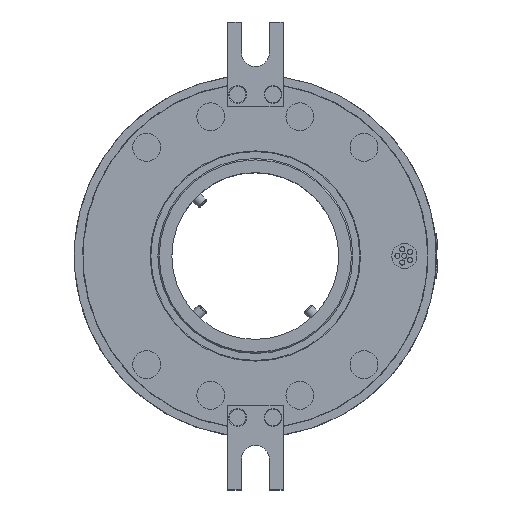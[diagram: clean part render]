
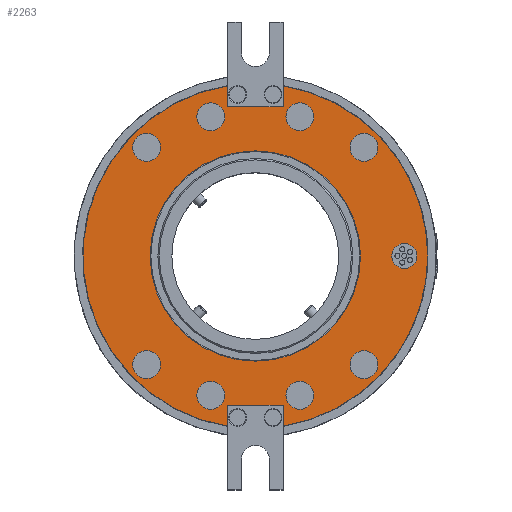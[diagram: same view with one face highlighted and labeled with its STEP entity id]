
A CAD part, top view. The second image highlights one B-rep face of the part: STEP entity #2263.
In plain terms, the highlighted planar face has unit normal (0, 0, 1) by its records, which use the part's own axes.
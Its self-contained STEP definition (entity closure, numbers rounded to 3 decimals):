
#172=FACE_BOUND('',#4006,.T.);
#173=FACE_BOUND('',#4007,.T.);
#174=FACE_BOUND('',#4008,.T.);
#175=FACE_BOUND('',#4009,.T.);
#176=FACE_BOUND('',#4010,.T.);
#177=FACE_BOUND('',#4011,.T.);
#178=FACE_BOUND('',#4012,.T.);
#179=FACE_BOUND('',#4013,.T.);
#180=FACE_BOUND('',#4014,.T.);
#181=FACE_BOUND('',#4015,.T.);
#182=FACE_BOUND('',#4016,.T.);
#505=CIRCLE('',#13571,5.);
#506=CIRCLE('',#13572,5.);
#507=CIRCLE('',#13573,5.);
#508=CIRCLE('',#13574,5.);
#509=CIRCLE('',#13575,4.5);
#510=CIRCLE('',#13576,5.);
#511=CIRCLE('',#13577,5.);
#512=CIRCLE('',#13578,5.);
#513=CIRCLE('',#13579,5.);
#514=CIRCLE('',#13580,37.75);
#515=CIRCLE('',#13581,61.9);
#516=CIRCLE('',#13582,61.9);
#1083=LINE('',#25279,#1593);
#1084=LINE('',#25282,#1594);
#1085=LINE('',#25286,#1595);
#1086=LINE('',#25288,#1596);
#1087=LINE('',#25290,#1597);
#1088=LINE('',#25294,#1598);
#1593=VECTOR('',#15032,1.);
#1594=VECTOR('',#15033,1.);
#1595=VECTOR('',#15036,1.);
#1596=VECTOR('',#15037,1.);
#1597=VECTOR('',#15038,1.);
#1598=VECTOR('',#15041,1.);
#2263=ADVANCED_FACE('',(#172,#173,#174,#175,#176,#177,#178,#179,#180,#181,
#182),#2783,.T.);
#2783=PLANE('',#13583);
#4006=EDGE_LOOP('',(#6396));
#4007=EDGE_LOOP('',(#6397));
#4008=EDGE_LOOP('',(#6398));
#4009=EDGE_LOOP('',(#6399));
#4010=EDGE_LOOP('',(#6400));
#4011=EDGE_LOOP('',(#6401));
#4012=EDGE_LOOP('',(#6402));
#4013=EDGE_LOOP('',(#6403));
#4014=EDGE_LOOP('',(#6404));
#4015=EDGE_LOOP('',(#6405));
#4016=EDGE_LOOP('',(#6406,#6407,#6408,#6409,#6410,#6411,#6412,#6413));
#6396=ORIENTED_EDGE('',*,*,#11030,.T.);
#6397=ORIENTED_EDGE('',*,*,#11031,.T.);
#6398=ORIENTED_EDGE('',*,*,#11032,.T.);
#6399=ORIENTED_EDGE('',*,*,#11033,.T.);
#6400=ORIENTED_EDGE('',*,*,#11034,.T.);
#6401=ORIENTED_EDGE('',*,*,#11035,.T.);
#6402=ORIENTED_EDGE('',*,*,#11036,.T.);
#6403=ORIENTED_EDGE('',*,*,#11037,.T.);
#6404=ORIENTED_EDGE('',*,*,#11038,.T.);
#6405=ORIENTED_EDGE('',*,*,#11039,.T.);
#6406=ORIENTED_EDGE('',*,*,#11040,.T.);
#6407=ORIENTED_EDGE('',*,*,#11041,.T.);
#6408=ORIENTED_EDGE('',*,*,#11042,.F.);
#6409=ORIENTED_EDGE('',*,*,#11043,.T.);
#6410=ORIENTED_EDGE('',*,*,#11044,.T.);
#6411=ORIENTED_EDGE('',*,*,#11045,.T.);
#6412=ORIENTED_EDGE('',*,*,#11046,.F.);
#6413=ORIENTED_EDGE('',*,*,#11047,.T.);
#9278=VERTEX_POINT('',#25260);
#9279=VERTEX_POINT('',#25262);
#9280=VERTEX_POINT('',#25264);
#9281=VERTEX_POINT('',#25266);
#9282=VERTEX_POINT('',#25268);
#9283=VERTEX_POINT('',#25270);
#9284=VERTEX_POINT('',#25272);
#9285=VERTEX_POINT('',#25274);
#9286=VERTEX_POINT('',#25276);
#9287=VERTEX_POINT('',#25278);
#9288=VERTEX_POINT('',#25280);
#9289=VERTEX_POINT('',#25281);
#9290=VERTEX_POINT('',#25283);
#9291=VERTEX_POINT('',#25285);
#9292=VERTEX_POINT('',#25287);
#9293=VERTEX_POINT('',#25289);
#9294=VERTEX_POINT('',#25291);
#9295=VERTEX_POINT('',#25293);
#11030=EDGE_CURVE('',#9278,#9278,#505,.T.);
#11031=EDGE_CURVE('',#9279,#9279,#506,.T.);
#11032=EDGE_CURVE('',#9280,#9280,#507,.T.);
#11033=EDGE_CURVE('',#9281,#9281,#508,.T.);
#11034=EDGE_CURVE('',#9282,#9282,#509,.T.);
#11035=EDGE_CURVE('',#9283,#9283,#510,.T.);
#11036=EDGE_CURVE('',#9284,#9284,#511,.T.);
#11037=EDGE_CURVE('',#9285,#9285,#512,.T.);
#11038=EDGE_CURVE('',#9286,#9286,#513,.T.);
#11039=EDGE_CURVE('',#9287,#9287,#514,.T.);
#11040=EDGE_CURVE('',#9288,#9289,#1083,.T.);
#11041=EDGE_CURVE('',#9289,#9290,#1084,.T.);
#11042=EDGE_CURVE('',#9291,#9290,#515,.T.);
#11043=EDGE_CURVE('',#9291,#9292,#1085,.T.);
#11044=EDGE_CURVE('',#9292,#9293,#1086,.T.);
#11045=EDGE_CURVE('',#9293,#9294,#1087,.T.);
#11046=EDGE_CURVE('',#9295,#9294,#516,.T.);
#11047=EDGE_CURVE('',#9295,#9288,#1088,.T.);
#13571=AXIS2_PLACEMENT_3D('',#25259,#15012,#15013);
#13572=AXIS2_PLACEMENT_3D('',#25261,#15014,#15015);
#13573=AXIS2_PLACEMENT_3D('',#25263,#15016,#15017);
#13574=AXIS2_PLACEMENT_3D('',#25265,#15018,#15019);
#13575=AXIS2_PLACEMENT_3D('',#25267,#15020,#15021);
#13576=AXIS2_PLACEMENT_3D('',#25269,#15022,#15023);
#13577=AXIS2_PLACEMENT_3D('',#25271,#15024,#15025);
#13578=AXIS2_PLACEMENT_3D('',#25273,#15026,#15027);
#13579=AXIS2_PLACEMENT_3D('',#25275,#15028,#15029);
#13580=AXIS2_PLACEMENT_3D('',#25277,#15030,#15031);
#13581=AXIS2_PLACEMENT_3D('',#25284,#15034,#15035);
#13582=AXIS2_PLACEMENT_3D('',#25292,#15039,#15040);
#13583=AXIS2_PLACEMENT_3D('',#25295,#15042,#15043);
#15012=DIRECTION('',(0.,0.,-1.));
#15013=DIRECTION('',(1.,0.,0.));
#15014=DIRECTION('',(0.,0.,-1.));
#15015=DIRECTION('',(1.,0.,0.));
#15016=DIRECTION('',(0.,0.,-1.));
#15017=DIRECTION('',(1.,0.,0.));
#15018=DIRECTION('',(0.,0.,-1.));
#15019=DIRECTION('',(1.,0.,0.));
#15020=DIRECTION('',(0.,0.,-1.));
#15021=DIRECTION('',(1.,0.,0.));
#15022=DIRECTION('',(0.,0.,-1.));
#15023=DIRECTION('',(1.,0.,0.));
#15024=DIRECTION('',(0.,0.,-1.));
#15025=DIRECTION('',(1.,0.,0.));
#15026=DIRECTION('',(0.,0.,-1.));
#15027=DIRECTION('',(1.,0.,0.));
#15028=DIRECTION('',(0.,0.,-1.));
#15029=DIRECTION('',(1.,0.,0.));
#15030=DIRECTION('',(0.,0.,-1.));
#15031=DIRECTION('',(1.,0.,0.));
#15032=DIRECTION('',(-1.,0.,0.));
#15033=DIRECTION('',(0.,1.,0.));
#15034=DIRECTION('',(0.,0.,-1.));
#15035=DIRECTION('',(1.,0.,0.));
#15036=DIRECTION('',(0.,1.,0.));
#15037=DIRECTION('',(1.,0.,0.));
#15038=DIRECTION('',(0.,-1.,0.));
#15039=DIRECTION('',(0.,0.,-1.));
#15040=DIRECTION('',(1.,0.,0.));
#15041=DIRECTION('',(0.,-1.,0.));
#15042=DIRECTION('',(0.,0.,1.));
#15043=DIRECTION('',(1.,0.,0.));
#25259=CARTESIAN_POINT('',(-39.,39.,61.5));
#25260=CARTESIAN_POINT('',(-34.,39.,61.5));
#25261=CARTESIAN_POINT('',(-16.,50.,61.5));
#25262=CARTESIAN_POINT('',(-11.,50.,61.5));
#25263=CARTESIAN_POINT('',(16.,50.,61.5));
#25264=CARTESIAN_POINT('',(21.,50.,61.5));
#25265=CARTESIAN_POINT('',(39.,39.,61.5));
#25266=CARTESIAN_POINT('',(44.,39.,61.5));
#25267=CARTESIAN_POINT('',(53.5,0.,61.5));
#25268=CARTESIAN_POINT('',(58.,0.,61.5));
#25269=CARTESIAN_POINT('',(39.,-39.,61.5));
#25270=CARTESIAN_POINT('',(44.,-39.,61.5));
#25271=CARTESIAN_POINT('',(16.,-50.,61.5));
#25272=CARTESIAN_POINT('',(21.,-50.,61.5));
#25273=CARTESIAN_POINT('',(-16.,-50.,61.5));
#25274=CARTESIAN_POINT('',(-11.,-50.,61.5));
#25275=CARTESIAN_POINT('',(-39.,-39.,61.5));
#25276=CARTESIAN_POINT('',(-34.,-39.,61.5));
#25277=CARTESIAN_POINT('',(0.,0.,61.5));
#25278=CARTESIAN_POINT('',(37.75,0.,61.5));
#25279=CARTESIAN_POINT('',(10.,53.5,61.5));
#25280=CARTESIAN_POINT('',(10.,53.5,61.5));
#25281=CARTESIAN_POINT('',(-10.,53.5,61.5));
#25282=CARTESIAN_POINT('',(-10.,53.5,61.5));
#25283=CARTESIAN_POINT('',(-10.,61.087,61.5));
#25284=CARTESIAN_POINT('',(0.,0.,
61.5));
#25285=CARTESIAN_POINT('',(-10.,-61.087,61.5));
#25286=CARTESIAN_POINT('',(-10.,-84.,61.5));
#25287=CARTESIAN_POINT('',(-10.,-53.5,61.5));
#25288=CARTESIAN_POINT('',(-10.,-53.5,61.5));
#25289=CARTESIAN_POINT('',(10.,-53.5,61.5));
#25290=CARTESIAN_POINT('',(10.,-53.5,61.5));
#25291=CARTESIAN_POINT('',(10.,-61.087,61.5));
#25292=CARTESIAN_POINT('',(0.,0.,
61.5));
#25293=CARTESIAN_POINT('',(10.,61.087,61.5));
#25294=CARTESIAN_POINT('',(10.,84.,61.5));
#25295=CARTESIAN_POINT('',(0.,0.,
61.5));
